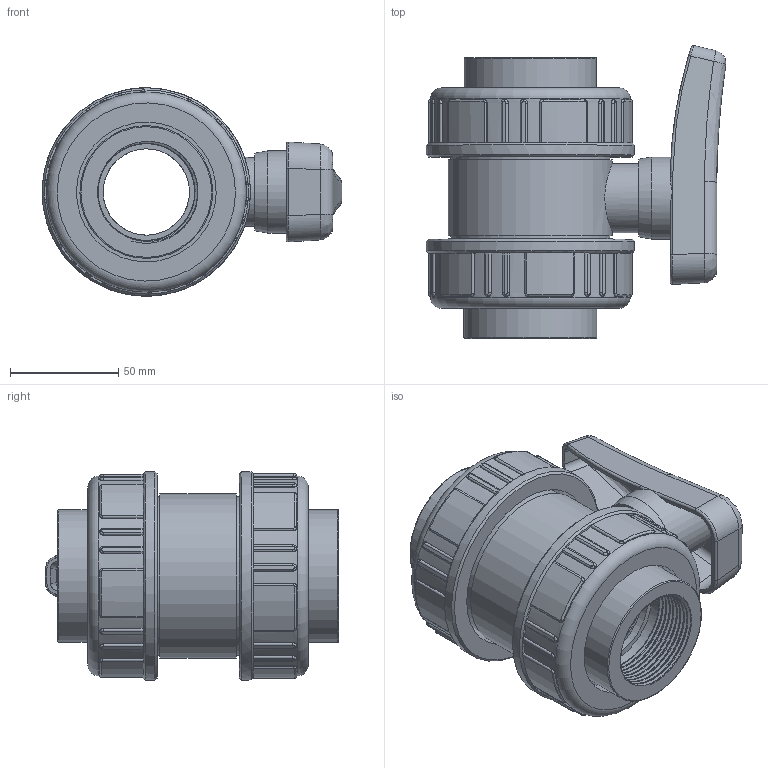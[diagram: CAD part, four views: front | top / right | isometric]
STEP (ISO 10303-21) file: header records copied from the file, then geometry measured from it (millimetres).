
FILE_DESCRIPTION(/* description */ (''),/* implementation_level */ '2;1');
FILE_NAME(/* name */ 'C:\Users\POLYPIPE\Desktop\DATASET INVENTOR\LIBRERIA EFFAST\3D_VALVOLE\3D_VALVOLE A SFERA\3D_BV\3D_BERBVE\3D_BERBVE050F.stp',/* time_stamp */ '2018-01-24T10:03:17+01:00',/* author */ ('POLYPIPE'),/* organization */ (''),/* preprocessor_version */ 'ST-DEVELOPER v16.1',/* originating_system */ 'Autodesk Inventor 2016',/* authorisation */ '');
FILE_SCHEMA (('CONFIG_CONTROL_DESIGN'));
Length unit declared in the file: centimetre
Products named in the file (1): 3D_BERBVE050F
Bounding box: 138.79 x 135.66 x 96.5 mm (x, y, z)
Volume: 532614.9 mm3; surface area: 128116.9 mm2
Topology: 2 solids, 3 shells, 519 faces, 1264 edges, 764 vertices
Faces by surface type: plane 168, bspline 168, cylinder 158, torus 16, cone 5, sphere 4
Full cylindrical faces by diameter (mm): 19.8 x1, 32 x1, 38 x1, 40 x2, 44.845 x2, 61.5 x2, 64.7 x2, 72 x2, 73.7 x2, 76 x1, 78.5 x2, 92.5 x2, 96.5 x2
Entity records: 65956 total; most frequent: CARTESIAN_POINT 54125, ORIENTED_EDGE 2450, DIRECTION 2129, EDGE_CURVE 1223, AXIS2_PLACEMENT_3D 817, VERTEX_POINT 754, EDGE_LOOP 569, STYLED_ITEM 521
